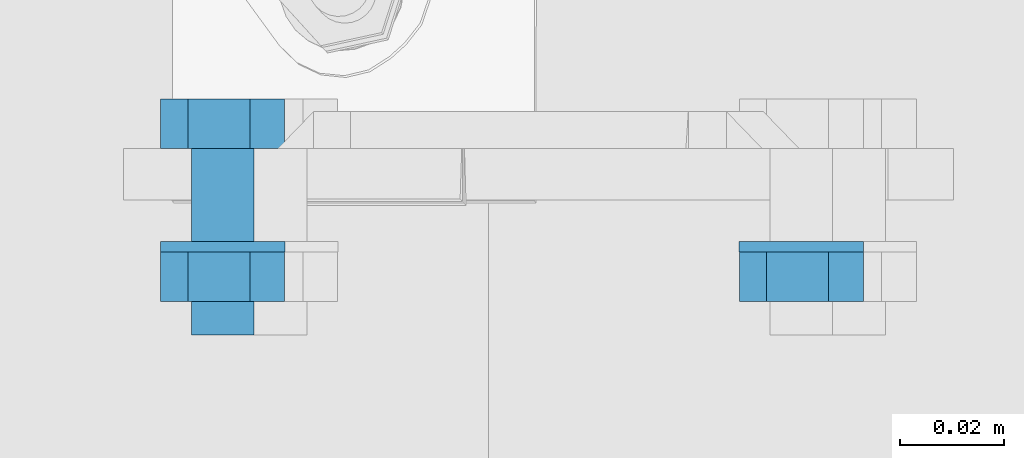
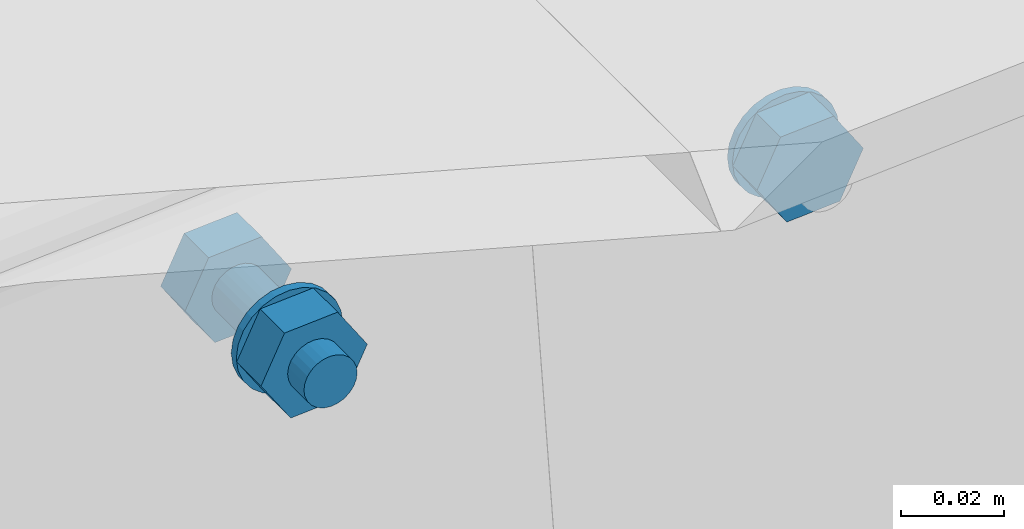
# One storey, part 32 of 72: 6 mechanical fasteners.
"""IFC4 building model written with IfcOpenShell, lengths in metres."""

from ifc_helpers import new_model, si_unit, frame, origin_with_axes, place, context, project, spatial, polyline, outline, extrude, type_object, element, save


model = new_model("IFC4")

# Units and contexts
model_context = context("Model", 3, precision=1e-05, world=origin_with_axes())
ifc_project = project(units=[si_unit("LENGTHUNIT", "METRE"), si_unit("AREAUNIT", "SQUARE_METRE"), si_unit("VOLUMEUNIT", "CUBIC_METRE"), si_unit("MASSUNIT", "GRAM", prefix="KILO"), si_unit("TIMEUNIT", "SECOND"), si_unit("PLANEANGLEUNIT", "RADIAN"), si_unit("SOLIDANGLEUNIT", "STERADIAN"), si_unit("THERMODYNAMICTEMPERATUREUNIT", "DEGREE_CELSIUS")], contexts=[model_context])

# Site, building, storey
placement_1 = place(None, origin_with_axes())
site = spatial("IfcSite", under=ifc_project, at=placement_1, Name="Italia", CompositionType="ELEMENT")
building = spatial("IfcBuilding", under=site, at=placement_1, Name="Pensilina", CompositionType="ELEMENT")
storey = spatial("IfcBuildingStorey", under=building, at=placement_1, Name="Storey 0", CompositionType="ELEMENT", Elevation=0.0)

# Mechanical fasteners
mechanical_fastener_type_1 = type_object("IfcMechanicalFastenerType", Name="Collegamento 0601_0602", PredefinedType="BOLT")
placement_2 = place(placement_1, origin_with_axes())
mechanical_fastener_1_placement = place(placement_2, origin_with_axes())
element("IfcMechanicalFastener", 1, at=mechanical_fastener_1_placement, inside=storey, type_object=mechanical_fastener_type_1, Name="Collegamento 0601_0602", NominalDiameter=0.0119996, context=model_context, shape_type="SweptSolid", body=[
    extrude(outline(polyline([(0.0, 0.0, 0.0), (-0.0119729, 0.000807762, 0.0), (-0.0172596, 0.0115805, 0.0), (-0.0105739, 0.0215449, 0.0), (0.00139904, 0.0207372, 0.0), (0.00668573, 0.00996447, 0.0), (0.0, 0.0, 0.0)])), frame((5.85528, -0.0156, 4.0944), z_axis=(0.0, 1.0, 0.0), x_axis=(-1.0, 0.0, 0.0)), (0.0, 0.0, 1.0), 0.0096),
])
mechanical_fastener_type_2 = type_object("IfcMechanicalFastenerType", Name="Collegamento 0601_0602", PredefinedType="BOLT")
mechanical_fastener_2_placement = place(placement_2, origin_with_axes())
element("IfcMechanicalFastener", 2, at=mechanical_fastener_2_placement, inside=storey, type_object=mechanical_fastener_type_2, Name="Collegamento 0601_0602", NominalDiameter=0.024, context=model_context, shape_type="SweptSolid", body=[
    extrude(outline(polyline([(0.0, 0.0, 0.0), (-0.000409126, -0.00310564, 0.0), (-0.00160789, -0.00600004, 0.0), (-0.00351477, -0.00848532, 0.0), (-0.00600004, -0.0103922, 0.0), (-0.00889444, -0.011591, 0.0), (-0.0120001, -0.0120001, 0.0), (-0.0151057, -0.011591, 0.0), (-0.0180001, -0.0103922, 0.0), (-0.0204854, -0.00848532, 0.0), (-0.0223923, -0.00600004, 0.0), (-0.023591, -0.00310564, 0.0), (-0.0240002, 0.0, 0.0), (-0.023591, 0.00310564, 0.0), (-0.0223923, 0.00600004, 0.0), (-0.0204854, 0.00848532, 0.0), (-0.0180001, 0.0103922, 0.0), (-0.0151057, 0.011591, 0.0), (-0.0120001, 0.0120001, 0.0), (-0.00889444, 0.011591, 0.0), (-0.00600004, 0.0103922, 0.0), (-0.00351477, 0.00848532, 0.0), (-0.00160789, 0.00600004, 0.0), (-0.000409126, 0.00310564, 0.0), (0.0, 0.0, 0.0)])), frame((5.84857, -0.006, 4.10518), z_axis=(0.0, 1.0, 0.0), x_axis=(-1.0, 0.0, 0.0)), (0.0, 0.0, 1.0), 0.002),
])
mechanical_fastener_type_3 = type_object("IfcMechanicalFastenerType", Name="Collegamento 0601_0602", PredefinedType="BOLT")
mechanical_fastener_3_placement = place(placement_2, origin_with_axes())
element("IfcMechanicalFastener", 3, at=mechanical_fastener_3_placement, inside=storey, type_object=mechanical_fastener_type_3, Name="Collegamento 0601_0602", NominalDiameter=0.0119996, context=model_context, shape_type="SweptSolid", body=[
    extrude(outline(polyline([(0.0, 0.0, 0.0), (-0.0119729, 0.000807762, 0.0), (-0.0172596, 0.0115805, 0.0), (-0.0105739, 0.0215449, 0.0), (0.00139904, 0.0207372, 0.0), (0.00668573, 0.00996447, 0.0), (0.0, 0.0, 0.0)])), frame((5.74354, 0.014, 4.08686), z_axis=(0.0, 1.0, 0.0), x_axis=(-1.0, 0.0, 0.0)), (0.0, 0.0, 1.0), 0.0096),
])
mechanical_fastener_type_4 = type_object("IfcMechanicalFastenerType", Name="Collegamento 0601_0602", PredefinedType="BOLT")
mechanical_fastener_4_placement = place(placement_2, origin_with_axes())
element("IfcMechanicalFastener", 4, at=mechanical_fastener_4_placement, inside=storey, type_object=mechanical_fastener_type_4, Name="Collegamento 0601_0602", NominalDiameter=0.012, context=model_context, shape_type="SweptSolid", body=[
    extrude(outline(polyline([(0.0, 0.0, 0.0), (-0.000204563, -0.00155306, 0.0), (-0.000803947, -0.00299978, 0.0), (-0.00175762, -0.00424242, 0.0), (-0.00300026, -0.00519609, 0.0), (-0.00444698, -0.00579548, 0.0), (-0.00600004, -0.00600004, 0.0), (-0.0075531, -0.00579548, 0.0), (-0.00899982, -0.00519609, 0.0), (-0.0102425, -0.00424242, 0.0), (-0.0111961, -0.00299978, 0.0), (-0.0117955, -0.00155306, 0.0), (-0.0120001, 0.0, 0.0), (-0.0117955, 0.00155306, 0.0), (-0.0111961, 0.00299978, 0.0), (-0.0102425, 0.00424242, 0.0), (-0.00899982, 0.00519609, 0.0), (-0.0075531, 0.00579548, 0.0), (-0.00600004, 0.00600004, 0.0), (-0.00444698, 0.00579548, 0.0), (-0.00300026, 0.00519609, 0.0), (-0.00175762, 0.00424242, 0.0), (-0.000803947, 0.00299978, 0.0), (-0.000204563, 0.00155306, 0.0), (0.0, 0.0, 0.0)])), frame((5.74282, -0.022, 4.09764), z_axis=(0.0, 1.0, 0.0), x_axis=(-1.0, 0.0, 0.0)), (0.0, 0.0, 1.0), 0.036),
])
mechanical_fastener_type_5 = type_object("IfcMechanicalFastenerType", Name="Collegamento 0601_0602", PredefinedType="BOLT")
mechanical_fastener_5_placement = place(placement_2, origin_with_axes())
element("IfcMechanicalFastener", 5, at=mechanical_fastener_5_placement, inside=storey, type_object=mechanical_fastener_type_5, Name="Collegamento 0601_0602", NominalDiameter=0.0119996, context=model_context, shape_type="SweptSolid", body=[
    extrude(outline(polyline([(0.0, 0.0, 0.0), (-0.0119729, 0.000807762, 0.0), (-0.0172596, 0.0115805, 0.0), (-0.0105739, 0.0215449, 0.0), (0.00139904, 0.0207372, 0.0), (0.00668573, 0.00996447, 0.0), (0.0, 0.0, 0.0)])), frame((5.74354, -0.0156, 4.08686), z_axis=(0.0, 1.0, 0.0), x_axis=(-1.0, 0.0, 0.0)), (0.0, 0.0, 1.0), 0.0096),
])
mechanical_fastener_type_6 = type_object("IfcMechanicalFastenerType", Name="Collegamento 0601_0602", PredefinedType="BOLT")
mechanical_fastener_6_placement = place(placement_2, origin_with_axes())
element("IfcMechanicalFastener", 6, at=mechanical_fastener_6_placement, inside=storey, type_object=mechanical_fastener_type_6, Name="Collegamento 0601_0602", NominalDiameter=0.024, context=model_context, shape_type="SweptSolid", body=[
    extrude(outline(polyline([(0.0, 0.0, 0.0), (-0.000409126, -0.00310564, 0.0), (-0.00160789, -0.00600004, 0.0), (-0.00351477, -0.00848532, 0.0), (-0.00600004, -0.0103922, 0.0), (-0.00889444, -0.011591, 0.0), (-0.0120001, -0.0120001, 0.0), (-0.0151057, -0.011591, 0.0), (-0.0180001, -0.0103922, 0.0), (-0.0204854, -0.00848532, 0.0), (-0.0223923, -0.00600004, 0.0), (-0.023591, -0.00310564, 0.0), (-0.0240002, 0.0, 0.0), (-0.023591, 0.00310564, 0.0), (-0.0223923, 0.00600004, 0.0), (-0.0204854, 0.00848532, 0.0), (-0.0180001, 0.0103922, 0.0), (-0.0151057, 0.011591, 0.0), (-0.0120001, 0.0120001, 0.0), (-0.00889444, 0.011591, 0.0), (-0.00600004, 0.0103922, 0.0), (-0.00351477, 0.00848532, 0.0), (-0.00160789, 0.00600004, 0.0), (-0.000409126, 0.00310564, 0.0), (0.0, 0.0, 0.0)])), frame((5.73682, -0.006, 4.09764), z_axis=(0.0, 1.0, 0.0), x_axis=(-1.0, 0.0, 0.0)), (0.0, 0.0, 1.0), 0.002),
])

save(model, "model.ifc")
